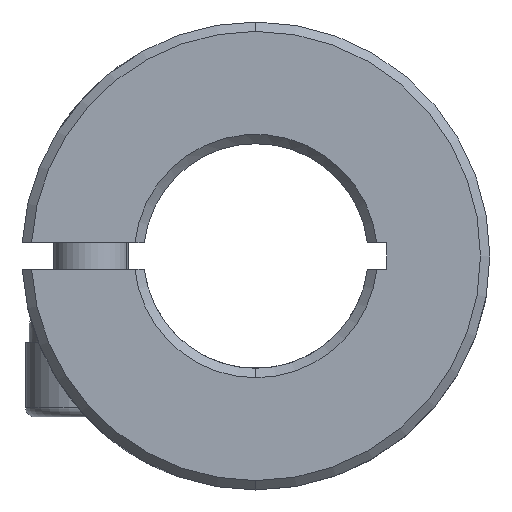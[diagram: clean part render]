
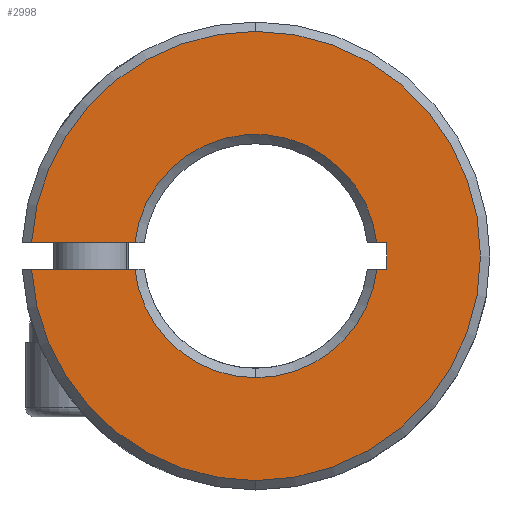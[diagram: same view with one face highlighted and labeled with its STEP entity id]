
A CAD part, front view. The second image highlights one B-rep face of the part: STEP entity #2998.
In plain terms, the highlighted planar face has unit normal (0, -1, 0).
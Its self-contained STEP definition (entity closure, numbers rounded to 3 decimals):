
#24 = EDGE_CURVE ( 'NONE', #1889, #2419, #5341, .T. ) ;
#77 = EDGE_CURVE ( 'NONE', #5733, #2560, #1868, .T. ) ;
#117 = DIRECTION ( 'NONE',  ( 1., 0., 0. ) ) ;
#179 = CIRCLE ( 'NONE', #4137, 6.5 ) ;
#234 = DIRECTION ( 'NONE',  ( -1., 0., 0. ) ) ;
#244 = ORIENTED_EDGE ( 'NONE', *, *, #24, .F. ) ;
#336 = VERTEX_POINT ( 'NONE', #2215 ) ;
#384 = DIRECTION ( 'NONE',  ( 0., -1., 0. ) ) ;
#393 = PLANE ( 'NONE',  #426 ) ;
#426 = AXIS2_PLACEMENT_3D ( 'NONE', #866, #4186, #1765 ) ;
#543 = VECTOR ( 'NONE', #234, 1000. ) ;
#587 = DIRECTION ( 'NONE',  ( 0., 1., 0. ) ) ;
#615 = EDGE_CURVE ( 'NONE', #336, #3755, #3370, .T. ) ;
#664 = CARTESIAN_POINT ( 'NONE',  ( 0., 0.25, 0. ) ) ;
#857 = DIRECTION ( 'NONE',  ( 0., 0., 1. ) ) ;
#866 = CARTESIAN_POINT ( 'NONE',  ( -500., 0.25, -13.609 ) ) ;
#943 = DIRECTION ( 'NONE',  ( 1., 0., 0. ) ) ;
#979 = DIRECTION ( 'NONE',  ( 0., 0., 1. ) ) ;
#986 = ORIENTED_EDGE ( 'NONE', *, *, #2663, .F. ) ;
#1001 = CARTESIAN_POINT ( 'NONE',  ( -11.98, 0.25, -0.7 ) ) ;
#1010 = CARTESIAN_POINT ( 'NONE',  ( 0., 0.25, 12. ) ) ;
#1141 = ORIENTED_EDGE ( 'NONE', *, *, #5728, .T. ) ;
#1160 = LINE ( 'NONE', #5596, #5239 ) ;
#1170 = CARTESIAN_POINT ( 'NONE',  ( -11.98, 0.25, 0.7 ) ) ;
#1228 = DIRECTION ( 'NONE',  ( 0., -1., 0. ) ) ;
#1260 = CARTESIAN_POINT ( 'NONE',  ( 7., 0.25, -0.7 ) ) ;
#1478 = FACE_OUTER_BOUND ( 'NONE', #4707, .T. ) ;
#1491 = DIRECTION ( 'NONE',  ( 0., 0., 1. ) ) ;
#1495 = EDGE_CURVE ( 'NONE', #1614, #3799, #5482, .T. ) ;
#1555 = EDGE_CURVE ( 'NONE', #1614, #3902, #1160, .T. ) ;
#1614 = VERTEX_POINT ( 'NONE', #1001 ) ;
#1685 = EDGE_CURVE ( 'NONE', #3435, #2560, #2034, .T. ) ;
#1765 = DIRECTION ( 'NONE',  ( 0., 0., 1. ) ) ;
#1777 = EDGE_CURVE ( 'NONE', #3755, #3902, #179, .T. ) ;
#1804 = ORIENTED_EDGE ( 'NONE', *, *, #77, .T. ) ;
#1807 = ORIENTED_EDGE ( 'NONE', *, *, #1495, .T. ) ;
#1855 = AXIS2_PLACEMENT_3D ( 'NONE', #2271, #384, #857 ) ;
#1868 = CIRCLE ( 'NONE', #3882, 12. ) ;
#1889 = VERTEX_POINT ( 'NONE', #4490 ) ;
#1945 = ORIENTED_EDGE ( 'NONE', *, *, #1777, .T. ) ;
#2034 = LINE ( 'NONE', #5269, #6132 ) ;
#2215 = CARTESIAN_POINT ( 'NONE',  ( 6.462, 0.25, -0.7 ) ) ;
#2271 = CARTESIAN_POINT ( 'NONE',  ( 0., 0.25, 0. ) ) ;
#2313 = ORIENTED_EDGE ( 'NONE', *, *, #615, .T. ) ;
#2373 = CARTESIAN_POINT ( 'NONE',  ( 0., 0.25, 0. ) ) ;
#2419 = VERTEX_POINT ( 'NONE', #3204 ) ;
#2488 = DIRECTION ( 'NONE',  ( 0., 0., 1. ) ) ;
#2560 = VERTEX_POINT ( 'NONE', #1170 ) ;
#2651 = DIRECTION ( 'NONE',  ( 0., -1., 0. ) ) ;
#2663 = EDGE_CURVE ( 'NONE', #336, #4629, #3112, .T. ) ;
#2998 = ADVANCED_FACE ( 'NONE', ( #1478 ), #393, .F. ) ;
#3014 = DIRECTION ( 'NONE',  ( -1., 0., 0. ) ) ;
#3022 = CARTESIAN_POINT ( 'NONE',  ( -6.462, 0.25, 0.7 ) ) ;
#3112 = LINE ( 'NONE', #5803, #4211 ) ;
#3135 = CARTESIAN_POINT ( 'NONE',  ( 0., 0.25, 0. ) ) ;
#3141 = CARTESIAN_POINT ( 'NONE',  ( 0., 0.25, 0. ) ) ;
#3204 = CARTESIAN_POINT ( 'NONE',  ( 6.462, 0.25, 0.7 ) ) ;
#3233 = ORIENTED_EDGE ( 'NONE', *, *, #1555, .F. ) ;
#3293 = CARTESIAN_POINT ( 'NONE',  ( 7., 0.25, 0.7 ) ) ;
#3305 = ORIENTED_EDGE ( 'NONE', *, *, #1685, .F. ) ;
#3370 = CIRCLE ( 'NONE', #4515, 6.5 ) ;
#3435 = VERTEX_POINT ( 'NONE', #3022 ) ;
#3755 = VERTEX_POINT ( 'NONE', #5116 ) ;
#3799 = VERTEX_POINT ( 'NONE', #4750 ) ;
#3800 = DIRECTION ( 'NONE',  ( 0., 1., 0. ) ) ;
#3805 = CIRCLE ( 'NONE', #5502, 6.5 ) ;
#3882 = AXIS2_PLACEMENT_3D ( 'NONE', #3135, #2651, #2488 ) ;
#3890 = CIRCLE ( 'NONE', #1855, 12. ) ;
#3902 = VERTEX_POINT ( 'NONE', #5734 ) ;
#4134 = ORIENTED_EDGE ( 'NONE', *, *, #4661, .T. ) ;
#4137 = AXIS2_PLACEMENT_3D ( 'NONE', #664, #587, #5852 ) ;
#4186 = DIRECTION ( 'NONE',  ( 0., 1., 0. ) ) ;
#4211 = VECTOR ( 'NONE', #117, 1000. ) ;
#4490 = CARTESIAN_POINT ( 'NONE',  ( 7., 0.25, 0.7 ) ) ;
#4515 = AXIS2_PLACEMENT_3D ( 'NONE', #2373, #4736, #979 ) ;
#4526 = CARTESIAN_POINT ( 'NONE',  ( -12.75, 0.25, 0.7 ) ) ;
#4629 = VERTEX_POINT ( 'NONE', #1260 ) ;
#4661 = EDGE_CURVE ( 'NONE', #3799, #5733, #3890, .T. ) ;
#4707 = EDGE_LOOP ( 'NONE', ( #986, #2313, #1945, #3233, #1807, #4134, #1804, #3305, #1141, #244, #5002 ) ) ;
#4736 = DIRECTION ( 'NONE',  ( 0., 1., 0. ) ) ;
#4750 = CARTESIAN_POINT ( 'NONE',  ( 0., 0.25, -12. ) ) ;
#4918 = AXIS2_PLACEMENT_3D ( 'NONE', #3141, #1228, #5031 ) ;
#5002 = ORIENTED_EDGE ( 'NONE', *, *, #5121, .F. ) ;
#5031 = DIRECTION ( 'NONE',  ( 0., 0., 1. ) ) ;
#5116 = CARTESIAN_POINT ( 'NONE',  ( 0., 0.25, -6.5 ) ) ;
#5121 = EDGE_CURVE ( 'NONE', #4629, #1889, #5291, .T. ) ;
#5239 = VECTOR ( 'NONE', #943, 1000. ) ;
#5269 = CARTESIAN_POINT ( 'NONE',  ( -12.75, 0.25, 0.7 ) ) ;
#5291 = LINE ( 'NONE', #3293, #5352 ) ;
#5341 = LINE ( 'NONE', #4526, #543 ) ;
#5352 = VECTOR ( 'NONE', #5685, 1000. ) ;
#5482 = CIRCLE ( 'NONE', #4918, 12. ) ;
#5502 = AXIS2_PLACEMENT_3D ( 'NONE', #5719, #3800, #1491 ) ;
#5596 = CARTESIAN_POINT ( 'NONE',  ( -12.75, 0.25, -0.7 ) ) ;
#5685 = DIRECTION ( 'NONE',  ( 0., 0., 1. ) ) ;
#5719 = CARTESIAN_POINT ( 'NONE',  ( 0., 0.25, 0. ) ) ;
#5728 = EDGE_CURVE ( 'NONE', #3435, #2419, #3805, .T. ) ;
#5733 = VERTEX_POINT ( 'NONE', #1010 ) ;
#5734 = CARTESIAN_POINT ( 'NONE',  ( -6.462, 0.25, -0.7 ) ) ;
#5803 = CARTESIAN_POINT ( 'NONE',  ( -12.75, 0.25, -0.7 ) ) ;
#5852 = DIRECTION ( 'NONE',  ( 0., 0., 1. ) ) ;
#6132 = VECTOR ( 'NONE', #3014, 1000. ) ;
